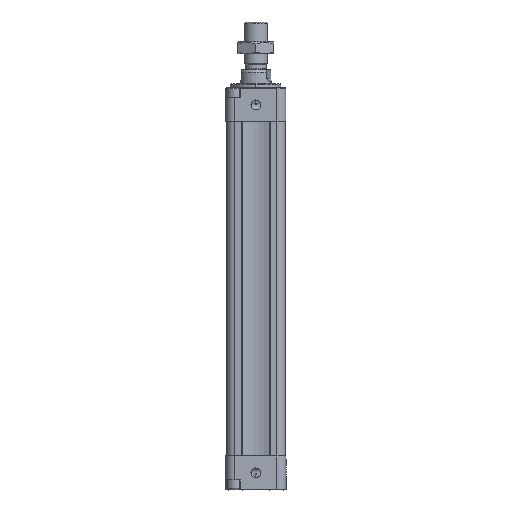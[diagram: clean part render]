
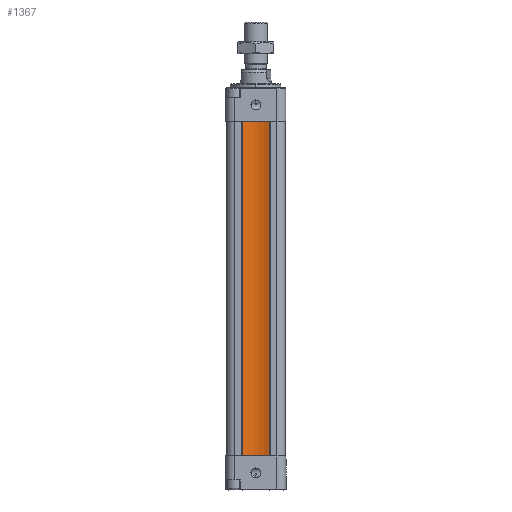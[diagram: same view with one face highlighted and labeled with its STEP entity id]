
A CAD part, front view. The second image highlights one B-rep face of the part: STEP entity #1367.
In plain terms, the highlighted cylindrical face has radius 17.083 mm (diameter 34.167 mm), a partial arc.
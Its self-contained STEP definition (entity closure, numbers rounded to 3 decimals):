
#674 = DIRECTION ( 'NONE',  ( 0., 0., 1. ) ) ;
#1367 = ADVANCED_FACE ( 'NONE', ( #4361 ), #10804, .F. ) ;
#2011 = AXIS2_PLACEMENT_3D ( 'NONE', #20592, #14633, #2299 ) ;
#2299 = DIRECTION ( 'NONE',  ( 1., 0., 0. ) ) ;
#2565 = VERTEX_POINT ( 'NONE', #9963 ) ;
#3682 = VERTEX_POINT ( 'NONE', #4005 ) ;
#4005 = CARTESIAN_POINT ( 'NONE',  ( -6.639, -38.093, -184. ) ) ;
#4361 = FACE_OUTER_BOUND ( 'NONE', #6322, .T. ) ;
#4562 = ORIENTED_EDGE ( 'NONE', *, *, #24185, .F. ) ;
#6102 = CARTESIAN_POINT ( 'NONE',  ( -6.639, -38.093, -17. ) ) ;
#6322 = EDGE_LOOP ( 'NONE', ( #23087, #19083, #23537, #4562 ) ) ;
#7065 = LINE ( 'NONE', #19792, #22863 ) ;
#7429 = DIRECTION ( 'NONE',  ( 0., 0., -1. ) ) ;
#9140 = DIRECTION ( 'NONE',  ( 1., 0., 0. ) ) ;
#9205 = CARTESIAN_POINT ( 'NONE',  ( -6.639, -38.093, -109. ) ) ;
#9236 = CARTESIAN_POINT ( 'NONE',  ( 0., -53.833, -109. ) ) ;
#9963 = CARTESIAN_POINT ( 'NONE',  ( 6.639, -38.093, -184. ) ) ;
#10804 = CYLINDRICAL_SURFACE ( 'NONE', #13644, 17.083 ) ;
#10949 = CARTESIAN_POINT ( 'NONE',  ( 6.639, -38.093, -17. ) ) ;
#11953 = EDGE_CURVE ( 'NONE', #22707, #2565, #7065, .T. ) ;
#12331 = EDGE_CURVE ( 'NONE', #2565, #3682, #16408, .T. ) ;
#13644 = AXIS2_PLACEMENT_3D ( 'NONE', #9236, #674, #9140 ) ;
#14160 = DIRECTION ( 'NONE',  ( 0., 0., 1. ) ) ;
#14633 = DIRECTION ( 'NONE',  ( 0., 0., -1. ) ) ;
#16408 = CIRCLE ( 'NONE', #26514, 17.083 ) ;
#16429 = DIRECTION ( 'NONE',  ( -1., 0., 0. ) ) ;
#16439 = VERTEX_POINT ( 'NONE', #6102 ) ;
#16653 = EDGE_CURVE ( 'NONE', #3682, #16439, #24706, .T. ) ;
#17521 = DIRECTION ( 'NONE',  ( 0., 0., 1. ) ) ;
#17930 = CIRCLE ( 'NONE', #2011, 17.083 ) ;
#19083 = ORIENTED_EDGE ( 'NONE', *, *, #12331, .F. ) ;
#19792 = CARTESIAN_POINT ( 'NONE',  ( 6.639, -38.093, -109. ) ) ;
#20592 = CARTESIAN_POINT ( 'NONE',  ( 0., -53.833, -17. ) ) ;
#22707 = VERTEX_POINT ( 'NONE', #10949 ) ;
#22863 = VECTOR ( 'NONE', #7429, 1000. ) ;
#23087 = ORIENTED_EDGE ( 'NONE', *, *, #16653, .F. ) ;
#23537 = ORIENTED_EDGE ( 'NONE', *, *, #11953, .F. ) ;
#24185 = EDGE_CURVE ( 'NONE', #16439, #22707, #17930, .T. ) ;
#24374 = VECTOR ( 'NONE', #17521, 1000. ) ;
#24625 = CARTESIAN_POINT ( 'NONE',  ( 0., -53.833, -184. ) ) ;
#24706 = LINE ( 'NONE', #9205, #24374 ) ;
#26514 = AXIS2_PLACEMENT_3D ( 'NONE', #24625, #14160, #16429 ) ;
